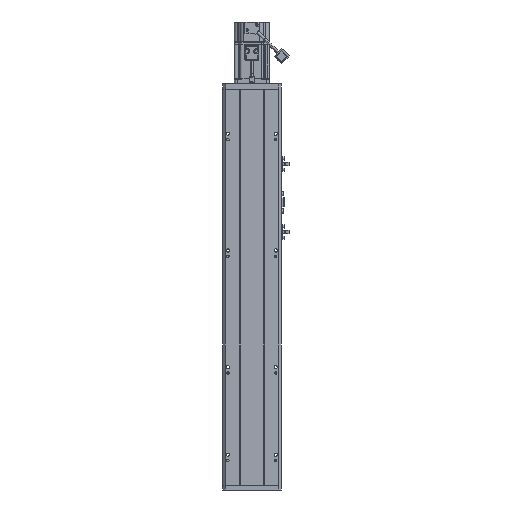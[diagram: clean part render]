
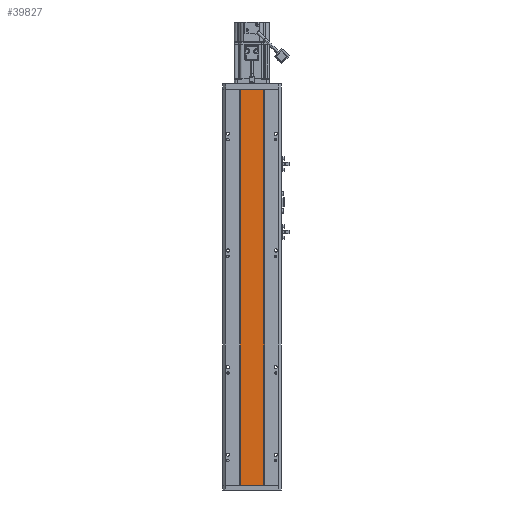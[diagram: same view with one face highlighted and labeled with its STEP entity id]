
A CAD part, front view. The second image highlights one B-rep face of the part: STEP entity #39827.
In plain terms, the highlighted planar face has unit normal (0, -1, 0).
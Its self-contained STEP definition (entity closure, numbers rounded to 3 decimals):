
#10997 = VERTEX_POINT ( 'NONE', #91914 ) ;
#11481 = LINE ( 'NONE', #73898, #88626 ) ;
#13880 = EDGE_CURVE ( 'NONE', #24957, #19827, #61699, .T. ) ;
#19827 = VERTEX_POINT ( 'NONE', #87520 ) ;
#21781 = ORIENTED_EDGE ( 'NONE', *, *, #64867, .T. ) ;
#21928 = ORIENTED_EDGE ( 'NONE', *, *, #13880, .F. ) ;
#24957 = VERTEX_POINT ( 'NONE', #48770 ) ;
#30565 = VERTEX_POINT ( 'NONE', #41031 ) ;
#31168 = ORIENTED_EDGE ( 'NONE', *, *, #71086, .F. ) ;
#31784 = CARTESIAN_POINT ( 'NONE',  ( 20., 0., -678.5 ) ) ;
#32109 = ORIENTED_EDGE ( 'NONE', *, *, #43830, .T. ) ;
#35092 = EDGE_LOOP ( 'NONE', ( #21781, #21928, #31168, #32109 ) ) ;
#35266 = DIRECTION ( 'NONE',  ( -1., 0., 0. ) ) ;
#37435 = DIRECTION ( 'NONE',  ( -1., 0., 0. ) ) ;
#39164 = DIRECTION ( 'NONE',  ( 0., 1., 0. ) ) ;
#39827 = ADVANCED_FACE ( 'NONE', ( #73609 ), #45925, .F. ) ;
#41031 = CARTESIAN_POINT ( 'NONE',  ( 20., 0., 0. ) ) ;
#43830 = EDGE_CURVE ( 'NONE', #10997, #30565, #63002, .T. ) ;
#45925 = PLANE ( 'NONE',  #66400 ) ;
#48770 = CARTESIAN_POINT ( 'NONE',  ( -20., 0., -678.5 ) ) ;
#50291 = DIRECTION ( 'NONE',  ( 0., 0., 1. ) ) ;
#50592 = CARTESIAN_POINT ( 'NONE',  ( -20., 0., -678.5 ) ) ;
#60166 = VECTOR ( 'NONE', #50291, 1000. ) ;
#61699 = LINE ( 'NONE', #50592, #60166 ) ;
#62026 = CARTESIAN_POINT ( 'NONE',  ( 20., 0., -678.5 ) ) ;
#63002 = LINE ( 'NONE', #62026, #63684 ) ;
#63684 = VECTOR ( 'NONE', #90133, 1000. ) ;
#64575 = CARTESIAN_POINT ( 'NONE',  ( 20., 0., -678.5 ) ) ;
#64867 = EDGE_CURVE ( 'NONE', #30565, #19827, #11481, .T. ) ;
#66400 = AXIS2_PLACEMENT_3D ( 'NONE', #31784, #39164, #89872 ) ;
#71086 = EDGE_CURVE ( 'NONE', #10997, #24957, #87473, .T. ) ;
#73609 = FACE_OUTER_BOUND ( 'NONE', #35092, .T. ) ;
#73898 = CARTESIAN_POINT ( 'NONE',  ( 20., 0., 0. ) ) ;
#85269 = VECTOR ( 'NONE', #35266, 1000. ) ;
#87473 = LINE ( 'NONE', #64575, #85269 ) ;
#87520 = CARTESIAN_POINT ( 'NONE',  ( -20., 0., 0. ) ) ;
#88626 = VECTOR ( 'NONE', #37435, 1000. ) ;
#89872 = DIRECTION ( 'NONE',  ( -1., 0., 0. ) ) ;
#90133 = DIRECTION ( 'NONE',  ( 0., 0., 1. ) ) ;
#91914 = CARTESIAN_POINT ( 'NONE',  ( 20., 0., -678.5 ) ) ;
